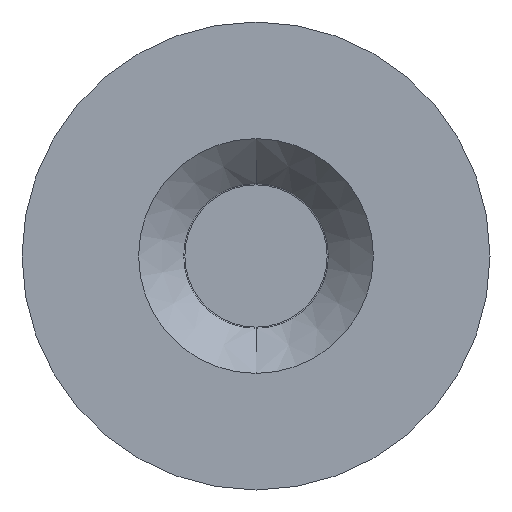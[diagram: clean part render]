
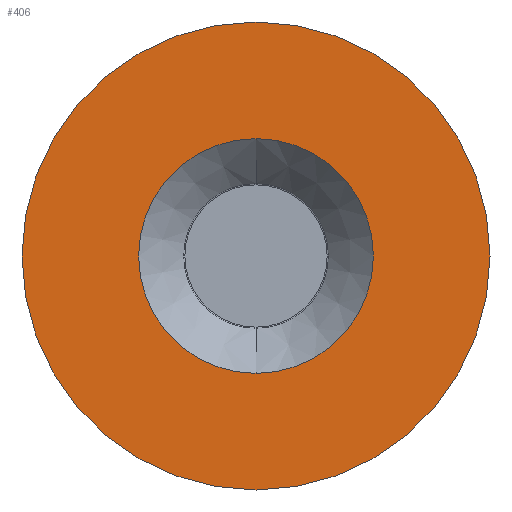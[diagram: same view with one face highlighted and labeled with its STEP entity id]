
A CAD part, front view. The second image highlights one B-rep face of the part: STEP entity #406.
In plain terms, the highlighted planar face has unit normal (0, -1, 0).
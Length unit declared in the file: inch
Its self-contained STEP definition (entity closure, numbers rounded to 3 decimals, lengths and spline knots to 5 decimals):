
#7 = CARTESIAN_POINT ( 'NONE',  ( 0., -0.048, 0. ) ) ;
#10 = AXIS2_PLACEMENT_3D ( 'NONE', #332, #59, #30 ) ;
#20 = FACE_BOUND ( 'NONE', #109, .T. ) ;
#24 = EDGE_CURVE ( 'NONE', #172, #106, #152, .T. ) ;
#29 = DIRECTION ( 'NONE',  ( 0., 0., -1. ) ) ;
#30 = DIRECTION ( 'NONE',  ( 0., 0., -1. ) ) ;
#35 = ORIENTED_EDGE ( 'NONE', *, *, #84, .T. ) ;
#54 = CIRCLE ( 'NONE', #10, 1.75 ) ;
#59 = DIRECTION ( 'NONE',  ( 0., -1., 0. ) ) ;
#84 = EDGE_CURVE ( 'NONE', #263, #409, #415, .T. ) ;
#106 = VERTEX_POINT ( 'NONE', #287 ) ;
#109 = EDGE_LOOP ( 'NONE', ( #358, #441 ) ) ;
#111 = AXIS2_PLACEMENT_3D ( 'NONE', #429, #386, #132 ) ;
#132 = DIRECTION ( 'NONE',  ( 0., 0., 1. ) ) ;
#146 = AXIS2_PLACEMENT_3D ( 'NONE', #7, #418, #220 ) ;
#152 = CIRCLE ( 'NONE', #394, 0.87812 ) ;
#172 = VERTEX_POINT ( 'NONE', #385 ) ;
#180 = CIRCLE ( 'NONE', #317, 0.87812 ) ;
#220 = DIRECTION ( 'NONE',  ( 0., 0., -1. ) ) ;
#224 = ORIENTED_EDGE ( 'NONE', *, *, #421, .T. ) ;
#226 = CARTESIAN_POINT ( 'NONE',  ( 0., -0.048, 0. ) ) ;
#254 = PLANE ( 'NONE',  #111 ) ;
#263 = VERTEX_POINT ( 'NONE', #288 ) ;
#267 = CARTESIAN_POINT ( 'NONE',  ( 0., -0.048, -1.75 ) ) ;
#272 = EDGE_LOOP ( 'NONE', ( #224, #35 ) ) ;
#287 = CARTESIAN_POINT ( 'NONE',  ( 0., -0.048, 0.87812 ) ) ;
#288 = CARTESIAN_POINT ( 'NONE',  ( 0., -0.048, 1.75 ) ) ;
#291 = DIRECTION ( 'NONE',  ( 0., -1., 0. ) ) ;
#299 = FACE_OUTER_BOUND ( 'NONE', #272, .T. ) ;
#317 = AXIS2_PLACEMENT_3D ( 'NONE', #226, #291, #419 ) ;
#332 = CARTESIAN_POINT ( 'NONE',  ( 0., -0.048, 0. ) ) ;
#358 = ORIENTED_EDGE ( 'NONE', *, *, #24, .F. ) ;
#385 = CARTESIAN_POINT ( 'NONE',  ( 0., -0.048, -0.87812 ) ) ;
#386 = DIRECTION ( 'NONE',  ( 0., 1., 0. ) ) ;
#390 = EDGE_CURVE ( 'NONE', #106, #172, #180, .T. ) ;
#394 = AXIS2_PLACEMENT_3D ( 'NONE', #407, #439, #29 ) ;
#406 = ADVANCED_FACE ( 'NONE', ( #20, #299 ), #254, .F. ) ;
#407 = CARTESIAN_POINT ( 'NONE',  ( 0., -0.048, 0. ) ) ;
#409 = VERTEX_POINT ( 'NONE', #267 ) ;
#415 = CIRCLE ( 'NONE', #146, 1.75 ) ;
#418 = DIRECTION ( 'NONE',  ( 0., -1., 0. ) ) ;
#419 = DIRECTION ( 'NONE',  ( 0., 0., -1. ) ) ;
#421 = EDGE_CURVE ( 'NONE', #409, #263, #54, .T. ) ;
#429 = CARTESIAN_POINT ( 'NONE',  ( -1.75, -0.048, 0. ) ) ;
#439 = DIRECTION ( 'NONE',  ( 0., -1., 0. ) ) ;
#441 = ORIENTED_EDGE ( 'NONE', *, *, #390, .F. ) ;
